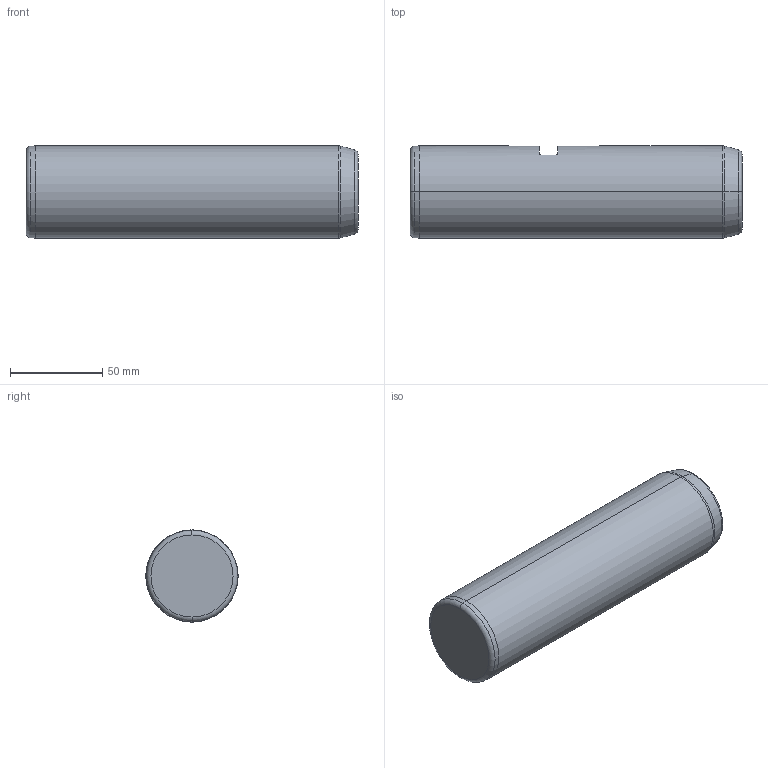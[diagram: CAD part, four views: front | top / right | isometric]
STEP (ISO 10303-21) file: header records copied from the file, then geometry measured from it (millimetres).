
FILE_DESCRIPTION (( 'STEP AP214' ), '1' );
FILE_NAME ('SP202-08-50-180.STEP', '2020-11-03T14:18:53', ( '' ), ( '' ), 'SwSTEP 2.0', 'SolidWorks 2018', '' );
FILE_SCHEMA (( 'AUTOMOTIVE_DESIGN' ));
Length unit declared in the file: millimetre
Products named in the file (1): SP202-08-50-180
Bounding box: 180 x 50 x 50 mm (x, y, z)
Volume: 345689.1 mm3; surface area: 32898.3 mm2
Topology: 1 solids, 1 shells, 26 faces, 54 edges, 31 vertices
Faces by surface type: cylinder 8, cone 6, torus 6, plane 6
Entity records: 744 total; most frequent: CARTESIAN_POINT 150, DIRECTION 132, ORIENTED_EDGE 104, AXIS2_PLACEMENT_3D 57, EDGE_CURVE 52, VERTEX_POINT 31, CIRCLE 30, EDGE_LOOP 29
